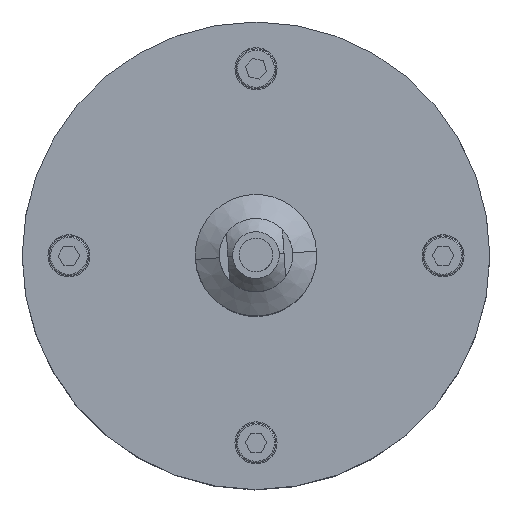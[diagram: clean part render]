
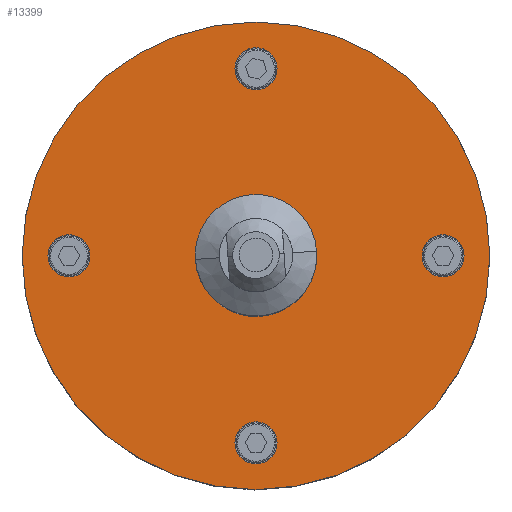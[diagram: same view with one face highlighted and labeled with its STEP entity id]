
A CAD part, top view. The second image highlights one B-rep face of the part: STEP entity #13399.
In plain terms, the highlighted planar face has unit normal (0, 0, 1).
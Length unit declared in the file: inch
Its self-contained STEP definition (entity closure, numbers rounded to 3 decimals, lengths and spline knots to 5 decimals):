
#20 = EDGE_CURVE ( 'NONE', #5121, #5852, #2887, .T. ) ;
#66 = EDGE_LOOP ( 'NONE', ( #1266, #11108 ) ) ;
#215 = CARTESIAN_POINT ( 'NONE',  ( 0.17717, -1.5748, 0.3937 ) ) ;
#232 = ORIENTED_EDGE ( 'NONE', *, *, #7176, .T. ) ;
#261 = CIRCLE ( 'NONE', #8574, 0.49213 ) ;
#915 = ORIENTED_EDGE ( 'NONE', *, *, #8232, .T. ) ;
#1266 = ORIENTED_EDGE ( 'NONE', *, *, #8412, .T. ) ;
#1383 = CIRCLE ( 'NONE', #7710, 0.17717 ) ;
#1461 = EDGE_CURVE ( 'NONE', #5852, #5121, #10122, .T. ) ;
#1567 = CIRCLE ( 'NONE', #8548, 0.17717 ) ;
#2223 = FACE_BOUND ( 'NONE', #9470, .T. ) ;
#2418 = EDGE_LOOP ( 'NONE', ( #915, #232 ) ) ;
#2597 = DIRECTION ( 'NONE',  ( -1., 0., 0. ) ) ;
#2621 = DIRECTION ( 'NONE',  ( 0., 0., -1. ) ) ;
#2639 = CARTESIAN_POINT ( 'NONE',  ( 0., 0., 0.3937 ) ) ;
#2680 = EDGE_LOOP ( 'NONE', ( #4279, #6261 ) ) ;
#2887 = CIRCLE ( 'NONE', #7918, 1.9685 ) ;
#3082 = CARTESIAN_POINT ( 'NONE',  ( 0., -1.5748, 0.3937 ) ) ;
#3424 = CARTESIAN_POINT ( 'NONE',  ( 0., 0., 0.3937 ) ) ;
#3615 = EDGE_CURVE ( 'NONE', #12221, #9478, #6366, .T. ) ;
#3760 = CARTESIAN_POINT ( 'NONE',  ( 0.49213, 0., 0.3937 ) ) ;
#3768 = VERTEX_POINT ( 'NONE', #4124 ) ;
#4052 = CARTESIAN_POINT ( 'NONE',  ( 0., 0., 0.3937 ) ) ;
#4124 = CARTESIAN_POINT ( 'NONE',  ( -0.49213, 0., 0.3937 ) ) ;
#4234 = DIRECTION ( 'NONE',  ( 1., 0., 0. ) ) ;
#4279 = ORIENTED_EDGE ( 'NONE', *, *, #20, .F. ) ;
#4489 = VERTEX_POINT ( 'NONE', #7003 ) ;
#4578 = DIRECTION ( 'NONE',  ( -1., 0., 0. ) ) ;
#4604 = CARTESIAN_POINT ( 'NONE',  ( 1.75197, 0., 0.3937 ) ) ;
#4759 = EDGE_CURVE ( 'NONE', #4489, #8724, #10688, .T. ) ;
#4815 = AXIS2_PLACEMENT_3D ( 'NONE', #4052, #11847, #5168 ) ;
#5116 = ORIENTED_EDGE ( 'NONE', *, *, #12907, .T. ) ;
#5121 = VERTEX_POINT ( 'NONE', #6623 ) ;
#5161 = CARTESIAN_POINT ( 'NONE',  ( -0.17717, 1.5748, 0.3937 ) ) ;
#5168 = DIRECTION ( 'NONE',  ( 1., 0., 0. ) ) ;
#5280 = VERTEX_POINT ( 'NONE', #3760 ) ;
#5495 = DIRECTION ( 'NONE',  ( 0., 0., -1. ) ) ;
#5502 = AXIS2_PLACEMENT_3D ( 'NONE', #12904, #6199, #14035 ) ;
#5553 = FACE_OUTER_BOUND ( 'NONE', #2680, .T. ) ;
#5838 = ORIENTED_EDGE ( 'NONE', *, *, #4759, .T. ) ;
#5852 = VERTEX_POINT ( 'NONE', #6622 ) ;
#6146 = AXIS2_PLACEMENT_3D ( 'NONE', #8133, #8090, #8076 ) ;
#6199 = DIRECTION ( 'NONE',  ( 0., 0., -1. ) ) ;
#6261 = ORIENTED_EDGE ( 'NONE', *, *, #1461, .F. ) ;
#6279 = AXIS2_PLACEMENT_3D ( 'NONE', #2639, #2621, #2597 ) ;
#6366 = CIRCLE ( 'NONE', #5502, 0.17717 ) ;
#6622 = CARTESIAN_POINT ( 'NONE',  ( 1.9685, 0., 0.3937 ) ) ;
#6623 = CARTESIAN_POINT ( 'NONE',  ( -1.9685, 0., 0.3937 ) ) ;
#6994 = ORIENTED_EDGE ( 'NONE', *, *, #8217, .T. ) ;
#7003 = CARTESIAN_POINT ( 'NONE',  ( 1.39764, 0., 0.3937 ) ) ;
#7176 = EDGE_CURVE ( 'NONE', #7510, #14234, #1567, .T. ) ;
#7185 = CARTESIAN_POINT ( 'NONE',  ( -1.75197, 0., 0.3937 ) ) ;
#7468 = ORIENTED_EDGE ( 'NONE', *, *, #14154, .T. ) ;
#7510 = VERTEX_POINT ( 'NONE', #5161 ) ;
#7710 = AXIS2_PLACEMENT_3D ( 'NONE', #3082, #10905, #4234 ) ;
#7796 = FACE_BOUND ( 'NONE', #9259, .T. ) ;
#7918 = AXIS2_PLACEMENT_3D ( 'NONE', #3424, #11246, #4578 ) ;
#8076 = DIRECTION ( 'NONE',  ( -1., 0., 0. ) ) ;
#8090 = DIRECTION ( 'NONE',  ( 0., 0., -1. ) ) ;
#8126 = DIRECTION ( 'NONE',  ( 1., 0., 0. ) ) ;
#8133 = CARTESIAN_POINT ( 'NONE',  ( 0., 0., 0.3937 ) ) ;
#8137 = DIRECTION ( 'NONE',  ( 0., 0., -1. ) ) ;
#8145 = CIRCLE ( 'NONE', #9378, 0.17717 ) ;
#8176 = CARTESIAN_POINT ( 'NONE',  ( -1.5748, 0., 0.3937 ) ) ;
#8217 = EDGE_CURVE ( 'NONE', #3768, #5280, #261, .T. ) ;
#8232 = EDGE_CURVE ( 'NONE', #14234, #7510, #8893, .T. ) ;
#8313 = DIRECTION ( 'NONE',  ( 1., 0., 0. ) ) ;
#8325 = DIRECTION ( 'NONE',  ( 0., 0., -1. ) ) ;
#8361 = CARTESIAN_POINT ( 'NONE',  ( -1.5748, 0., 0.3937 ) ) ;
#8392 = EDGE_CURVE ( 'NONE', #9642, #12634, #8510, .T. ) ;
#8412 = EDGE_CURVE ( 'NONE', #12634, #9642, #14122, .T. ) ;
#8510 = CIRCLE ( 'NONE', #11571, 0.17717 ) ;
#8548 = AXIS2_PLACEMENT_3D ( 'NONE', #12837, #12787, #12741 ) ;
#8574 = AXIS2_PLACEMENT_3D ( 'NONE', #9212, #9182, #9172 ) ;
#8724 = VERTEX_POINT ( 'NONE', #4604 ) ;
#8893 = CIRCLE ( 'NONE', #10078, 0.17717 ) ;
#9030 = DIRECTION ( 'NONE',  ( 1., 0., 0. ) ) ;
#9039 = DIRECTION ( 'NONE',  ( 0., 0., -1. ) ) ;
#9077 = CARTESIAN_POINT ( 'NONE',  ( 0., 1.5748, 0.3937 ) ) ;
#9172 = DIRECTION ( 'NONE',  ( -1., 0., 0. ) ) ;
#9182 = DIRECTION ( 'NONE',  ( 0., 0., -1. ) ) ;
#9212 = CARTESIAN_POINT ( 'NONE',  ( 0., 0., 0.3937 ) ) ;
#9259 = EDGE_LOOP ( 'NONE', ( #13158, #7468 ) ) ;
#9378 = AXIS2_PLACEMENT_3D ( 'NONE', #12180, #5495, #13308 ) ;
#9470 = EDGE_LOOP ( 'NONE', ( #6994, #13320 ) ) ;
#9478 = VERTEX_POINT ( 'NONE', #10150 ) ;
#9561 = EDGE_CURVE ( 'NONE', #5280, #3768, #11322, .T. ) ;
#9642 = VERTEX_POINT ( 'NONE', #7185 ) ;
#10078 = AXIS2_PLACEMENT_3D ( 'NONE', #9077, #9039, #9030 ) ;
#10122 = CIRCLE ( 'NONE', #6279, 1.9685 ) ;
#10150 = CARTESIAN_POINT ( 'NONE',  ( -0.17717, -1.5748, 0.3937 ) ) ;
#10688 = CIRCLE ( 'NONE', #12342, 0.17717 ) ;
#10780 = FACE_BOUND ( 'NONE', #11596, .T. ) ;
#10905 = DIRECTION ( 'NONE',  ( 0., 0., -1. ) ) ;
#11108 = ORIENTED_EDGE ( 'NONE', *, *, #8392, .T. ) ;
#11246 = DIRECTION ( 'NONE',  ( 0., 0., -1. ) ) ;
#11322 = CIRCLE ( 'NONE', #6146, 0.49213 ) ;
#11571 = AXIS2_PLACEMENT_3D ( 'NONE', #8361, #8325, #8313 ) ;
#11596 = EDGE_LOOP ( 'NONE', ( #5116, #5838 ) ) ;
#11847 = DIRECTION ( 'NONE',  ( 0., 0., 1. ) ) ;
#12080 = CARTESIAN_POINT ( 'NONE',  ( 0.17717, 1.5748, 0.3937 ) ) ;
#12180 = CARTESIAN_POINT ( 'NONE',  ( 1.5748, 0., 0.3937 ) ) ;
#12221 = VERTEX_POINT ( 'NONE', #215 ) ;
#12342 = AXIS2_PLACEMENT_3D ( 'NONE', #12647, #12595, #12544 ) ;
#12544 = DIRECTION ( 'NONE',  ( 1., 0., 0. ) ) ;
#12595 = DIRECTION ( 'NONE',  ( 0., 0., -1. ) ) ;
#12634 = VERTEX_POINT ( 'NONE', #13006 ) ;
#12647 = CARTESIAN_POINT ( 'NONE',  ( 1.5748, 0., 0.3937 ) ) ;
#12741 = DIRECTION ( 'NONE',  ( 1., 0., 0. ) ) ;
#12787 = DIRECTION ( 'NONE',  ( 0., 0., -1. ) ) ;
#12837 = CARTESIAN_POINT ( 'NONE',  ( 0., 1.5748, 0.3937 ) ) ;
#12904 = CARTESIAN_POINT ( 'NONE',  ( 0., -1.5748, 0.3937 ) ) ;
#12907 = EDGE_CURVE ( 'NONE', #8724, #4489, #8145, .T. ) ;
#12931 = PLANE ( 'NONE',  #4815 ) ;
#13006 = CARTESIAN_POINT ( 'NONE',  ( -1.39764, 0., 0.3937 ) ) ;
#13158 = ORIENTED_EDGE ( 'NONE', *, *, #3615, .T. ) ;
#13308 = DIRECTION ( 'NONE',  ( 1., 0., 0. ) ) ;
#13320 = ORIENTED_EDGE ( 'NONE', *, *, #9561, .T. ) ;
#13399 = ADVANCED_FACE ( 'NONE', ( #5553, #2223, #14106, #13755, #10780, #7796 ), #12931, .T. ) ;
#13755 = FACE_BOUND ( 'NONE', #2418, .T. ) ;
#13831 = AXIS2_PLACEMENT_3D ( 'NONE', #8176, #8137, #8126 ) ;
#14035 = DIRECTION ( 'NONE',  ( 1., 0., 0. ) ) ;
#14106 = FACE_BOUND ( 'NONE', #66, .T. ) ;
#14122 = CIRCLE ( 'NONE', #13831, 0.17717 ) ;
#14154 = EDGE_CURVE ( 'NONE', #9478, #12221, #1383, .T. ) ;
#14234 = VERTEX_POINT ( 'NONE', #12080 ) ;
